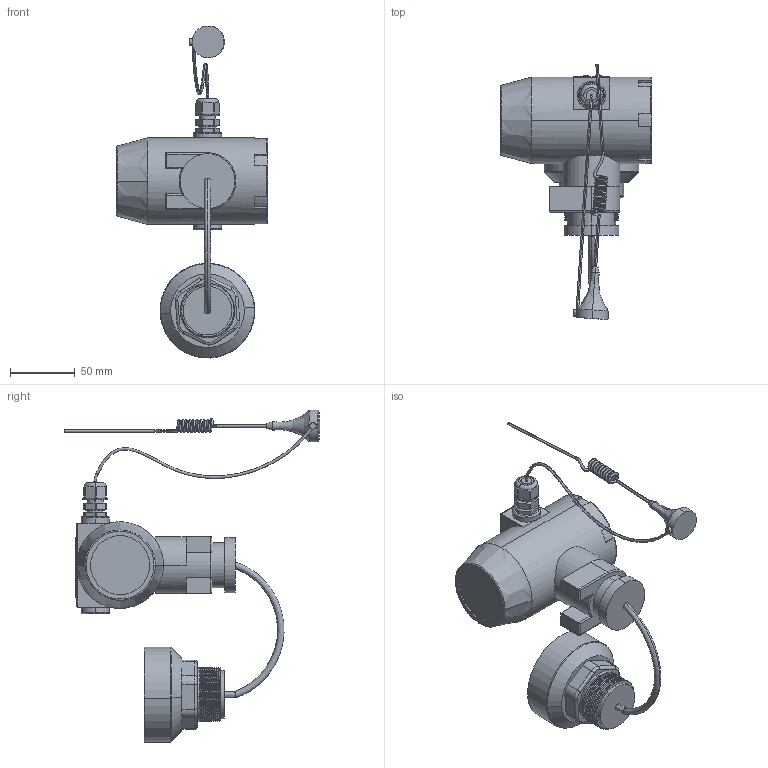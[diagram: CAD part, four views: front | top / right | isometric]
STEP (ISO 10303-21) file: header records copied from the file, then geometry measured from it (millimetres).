
FILE_DESCRIPTION((''),'2;1');
FILE_NAME('ASM0004_ASM','2025-12-29T14:47:31',('28740194'),(''),'CREO PARAMETRIC BY PTC INC, 2024063','CREO PARAMETRIC BY PTC INC, 2024063','');
FILE_SCHEMA(('CONFIG_CONTROL_DESIGN'));
Length unit declared in the file: millimetre
Products named in the file (11): 0003; EV214_27005336_DUMMY_MIR; EV214_27005336_02_MIR; EV214_27005336_03_MIR; EV214_27005336_04_MIR; EV214_27005336_06_MIR; EV214_27005336_07_MIR; ASM0003__ASM; 00; KUS630; ASM0004_ASM
Assembly tree (10 placements, depth 3):
  ASM0004_ASM
    0003
    ASM0003__ASM
      EV214_27005336_DUMMY_MIR
      EV214_27005336_02_MIR
      EV214_27005336_03_MIR
      EV214_27005336_04_MIR
      EV214_27005336_06_MIR
      EV214_27005336_07_MIR
    00
    KUS630
Bounding box: 117 x 197.62 x 257.09 mm (x, y, z)
Volume: 685124 mm3; surface area: 78843.3 mm2
Topology: 8 solids, 13 shells, 1105 faces, 3075 edges, 2029 vertices
Faces by surface type: plane 880, cylinder 141, bspline 38, torus 28, cone 14, sphere 4
Entity records: 43887 total; most frequent: CARTESIAN_POINT 15343, ORIENTED_EDGE 6122, DIRECTION 5512, EDGE_CURVE 3069, VECTOR 2456, LINE 2456, VERTEX_POINT 2029, AXIS2_PLACEMENT_3D 1528
